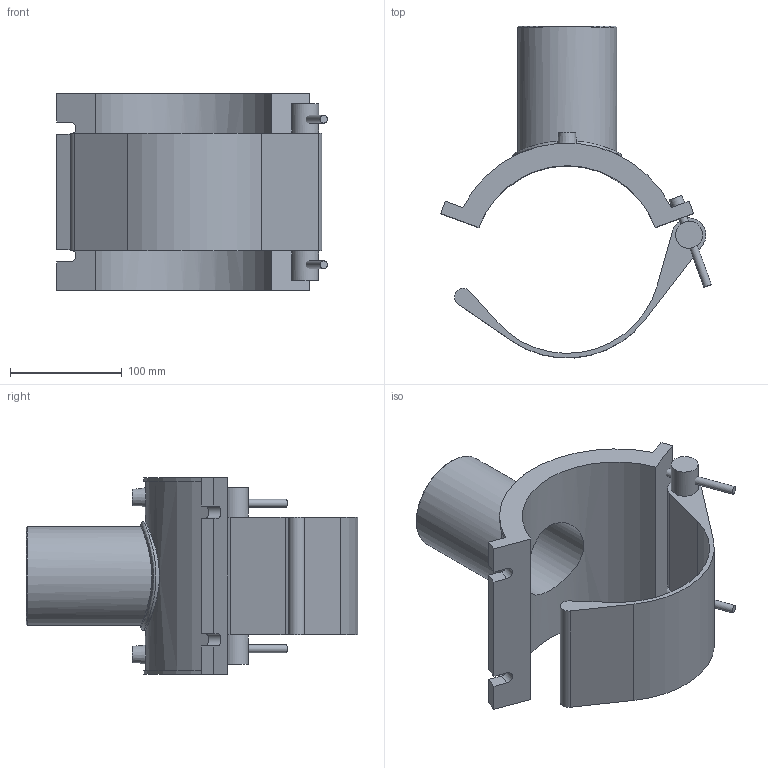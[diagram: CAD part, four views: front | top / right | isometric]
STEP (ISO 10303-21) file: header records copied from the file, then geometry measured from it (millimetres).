
FILE_DESCRIPTION(/* description */ ('PLASSON BRANCH SADDLE 6'''' x 3'''''),/* implementation_level */ '2;1');
FILE_NAME(/* name */ 'C:\Dropbox\KIMPROJECTS-Inventor 2019\99-16-3568-Processing Inch\ASTM ElectroFusion 2021\5958B-2\5958BB03060030.ipt.stp',/* time_stamp */ '2021-08-30T09:53:46+03:00',/* author */ ('KIM'),/* organization */ (''),/* preprocessor_version */ 'ST-DEVELOPER v17.2',/* originating_system */ 'Autodesk Inventor 2019',/* authorisation */ '');
FILE_SCHEMA (('AUTOMOTIVE_DESIGN { 1 0 10303 214 3 1 1 }'));
Length unit declared in the file: inch
Products named in the file (1): 5958BB03060030
Bounding box: 242.48 x 297.19 x 176.02 mm (x, y, z)
Volume: 1319133.2 mm3; surface area: 244391 mm2
Topology: 4 solids, 4 shells, 65 faces, 147 edges, 102 vertices
Faces by surface type: plane 37, cylinder 24, cone 3, bspline 1
Full cylindrical faces by diameter (mm): 4 x2, 7.056 x2, 10 x2, 11.76 x2, 24.192 x2, 70.96 x1, 88.7 x1, 97.57 x1
Entity records: 2304 total; most frequent: CARTESIAN_POINT 747, DIRECTION 322, ORIENTED_EDGE 294, EDGE_CURVE 147, AXIS2_PLACEMENT_3D 121, VERTEX_POINT 102, LINE 80, VECTOR 80
